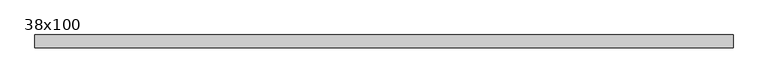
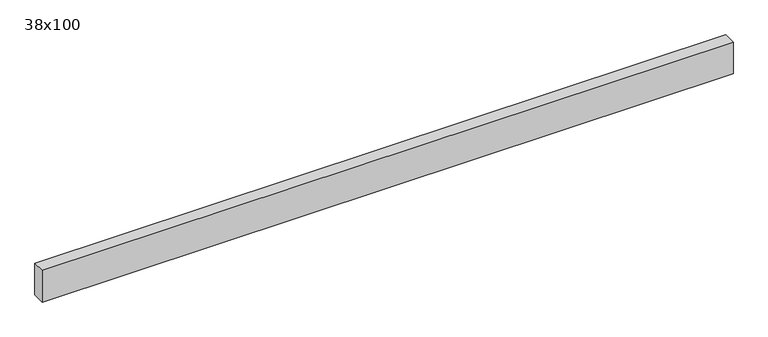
"""IFC4 building model written with IfcOpenShell, lengths in millimetres: beam geometry, Poutre - Bois de construction de dimensions courantes : 38x100."""

from ifc_helpers import new_model, si_unit, frame, origin, place, context, project, spatial, polyline, outline, extrude, source, transform, mapped, element, save


def beam_38x100_d34b0a05(model_context):
    return source(origin(), model_context, "Body", "SweptSolid", [
        extrude(outline(polyline([(956.0, 19.05), (956.0, -19.05), (-1116.0, -19.05), (-1116.0, 19.05), (956.0, 19.05)])), frame((0.0, 0.0, -50.0), z_axis=(0.0, 0.0, 1.0), x_axis=(1.0, 0.0, 0.0)), (0.0, 0.0, 1.0), 100.0),
    ])


if __name__ == "__main__":
    model = new_model("IFC4")
    model_context = context("Model", 3, world=origin())
    ifc_project = project(units=[si_unit("LENGTHUNIT", "METRE", prefix="MILLI")], contexts=[model_context])
    site = spatial("IfcSite", under=ifc_project)
    building = spatial("IfcBuilding", under=site)
    placement = place(None, origin())
    beam_38x100_shape = beam_38x100_d34b0a05(model_context)
    element("IfcBeam", 1, ObjectType="Poutre - Bois de construction de dimensions courantes : 38x100", at=placement, inside=building, context=model_context, shape_type="MappedRepresentation", body=[
        mapped(beam_38x100_shape, transform((0.0, 0.0, 0.0), x_axis=(1.0, 0.0, 0.0), y_axis=(0.0, 1.0, 0.0), z_axis=(0.0, 0.0, 1.0))),
    ])
    save(model, "model.ifc")
